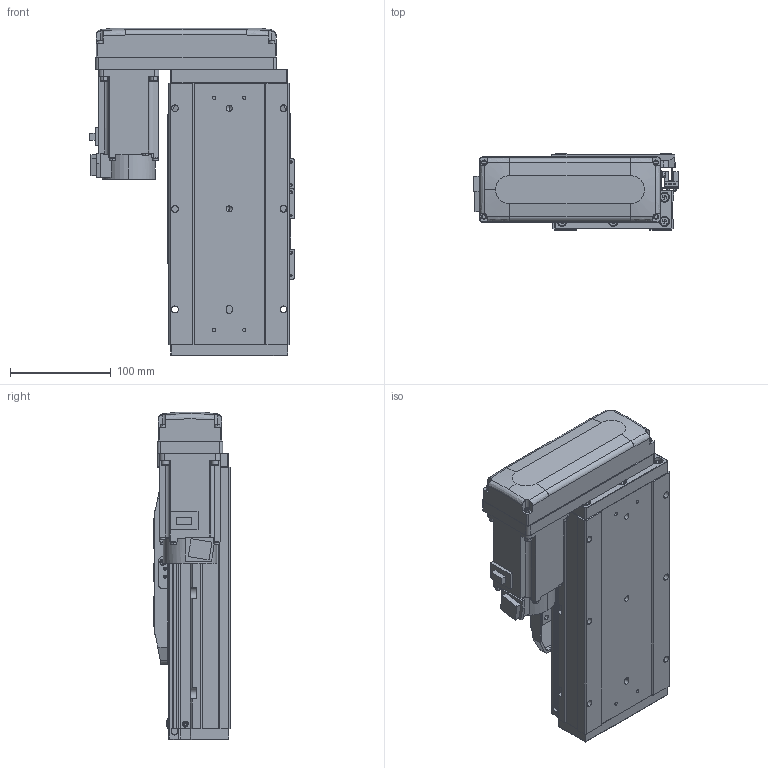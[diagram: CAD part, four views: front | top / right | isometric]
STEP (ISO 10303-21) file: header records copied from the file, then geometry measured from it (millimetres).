
FILE_DESCRIPTION (( 'STEP AP203' ), '1' );
FILE_NAME ('GTH12-50-BR-M40-C4.step', '2023-07-05T00:06:12', ( '微软用户' ), ( '微软中国' ), 'SwSTEP 2.0', 'SolidWorks 2020', '' );
FILE_SCHEMA (( 'CONFIG_CONTROL_DESIGN' ));
Length unit declared in the file: millimetre
Products named in the file (18): GTH120-006; GTH80-028; GTH120-027-1_GTH120-027-2; GTH120-004; GTH50-023; GTH12-50-BR-M40-C4; GTH120-013; GTH50-024; GBT 70.1-M3℅6; GBT96.1-2002 3×0.8; GBT 70.1-M5×16; BTH-M3X5X6; GTH120-001_50; GBT 70.3-M3℅8; hg-kn43j_-s100_; GTH120-003; GTH80-022; CTHA86-033_M40B
Assembly tree (59 placements, depth 2):
  GTH12-50-BR-M40-C4
    GTH120-001_50
    GTH120-003
    GTH120-006
    GTH120-004
    GTH120-013
    GBT 70.1-M3℅6  x14
    GBT 70.1-M5×16  x10
    GBT 70.3-M3℅8  x4
    GTH80-022
    GTH80-028  x2
    GTH50-023  x3
    GTH50-024  x3
    GBT96.1-2002 3×0.8  x6
    BTH-M3X5X6  x8
    hg-kn43j_-s100_
    CTHA86-033_M40B
    GTH120-027-1_GTH120-027-2
Bounding box: 203.5 x 76 x 325.5 mm (x, y, z)
Volume: 2976979.4 mm3; surface area: 382701.8 mm2
Topology: 61 solids, 61 shells, 2313 faces, 5350 edges, 3279 vertices
Faces by surface type: plane 1214, cylinder 643, cone 268, torus 174, sphere 8, bspline 6
Entity records: 41512 total; most frequent: CARTESIAN_POINT 7028, DIRECTION 6810, ORIENTED_EDGE 6310, EDGE_CURVE 3155, AXIS2_PLACEMENT_3D 2382, VECTOR 2046, LINE 2046, VERTEX_POINT 2000
